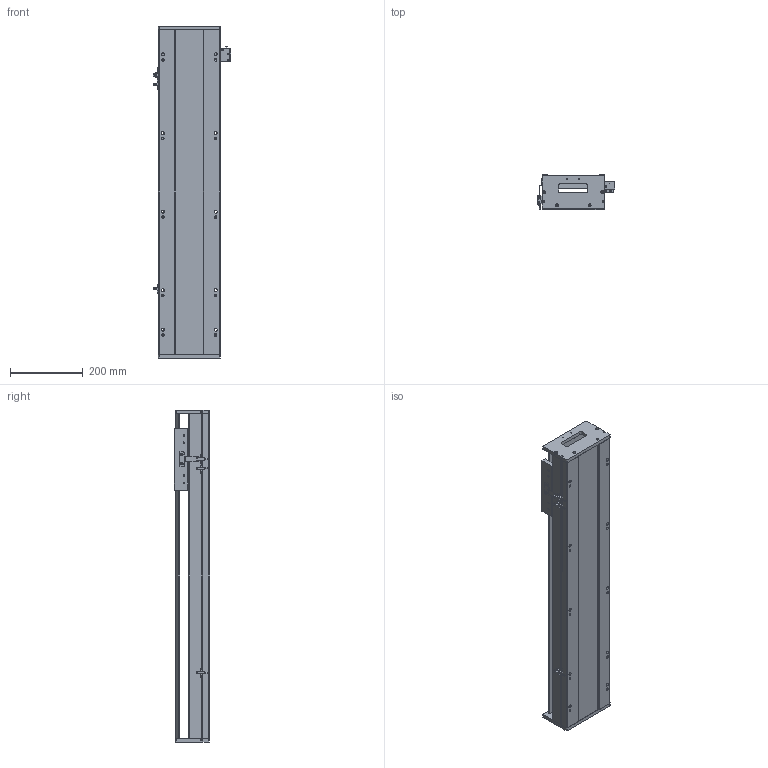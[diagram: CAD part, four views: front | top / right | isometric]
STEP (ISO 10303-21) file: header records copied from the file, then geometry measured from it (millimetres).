
FILE_DESCRIPTION (( 'STEP AP203' ), '1' );
FILE_NAME ('SKR17S-C1-S642（简）.STEP', '2022-09-29T03:03:13', ( '' ), ( '' ), 'SwSTEP 2.0', 'SolidWorks 2018', '' );
FILE_SCHEMA (( 'CONFIG_CONTROL_DESIGN' ));
Length unit declared in the file: millimetre
Products named in the file (8): SKR17S-C1-S642（简）; 感应片（SKR12S-14S-17S）; SKR17滑台-170L（简）; EE-SX672; 棠掑假蚾輸; SKR17耜啣; SKR17菁釱-C1-S642(潠); SIKO棠掑
Assembly tree (10 placements, depth 2):
  SKR17S-C1-S642（简）
    SKR17菁釱-C1-S642(潠)
    SKR17滑台-170L（简）
    SIKO棠掑
    EE-SX672  x3
    SKR17耜啣  x2
    棠掑假蚾輸
    感应片（SKR12S-14S-17S）
Bounding box: 212.7 x 97 x 912 mm (x, y, z)
Volume: 7390713.7 mm3; surface area: 961523.8 mm2
Topology: 11 solids, 11 shells, 1041 faces, 2867 edges, 1846 vertices
Faces by surface type: cylinder 476, plane 453, cone 112
Entity records: 30854 total; most frequent: CARTESIAN_POINT 7721, ORIENTED_EDGE 4770, DIRECTION 4532, EDGE_CURVE 2385, AXIS2_PLACEMENT_3D 1609, VERTEX_POINT 1550, LINE 1314, VECTOR 1314
